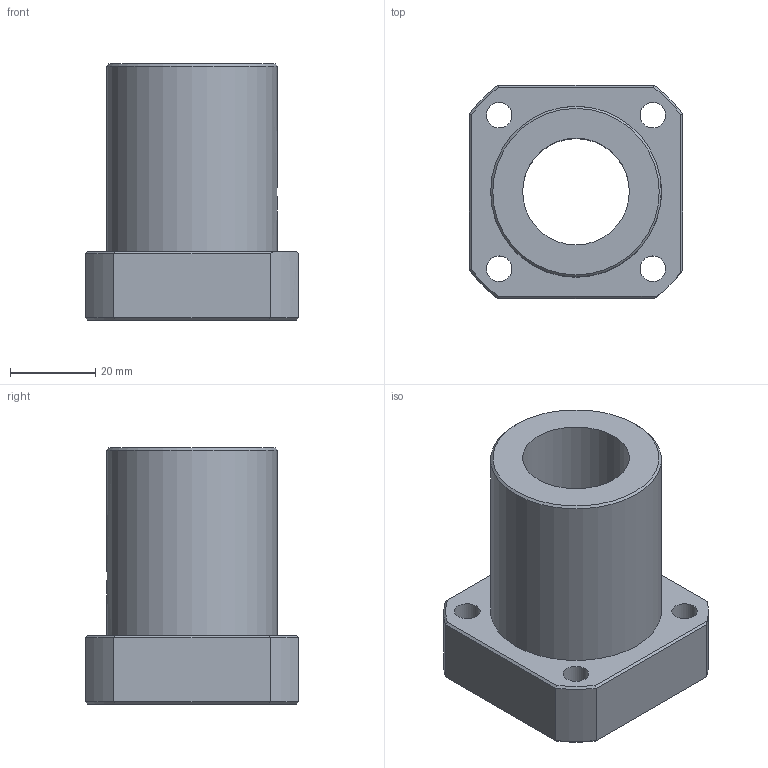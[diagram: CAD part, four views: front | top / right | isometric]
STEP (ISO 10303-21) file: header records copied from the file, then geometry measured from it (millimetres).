
FILE_DESCRIPTION((''),'2;1');
FILE_NAME('D:\製品 (図面)\カタログ用3D\シャフトブロック関連\STEP形式\SFW\SFW25.stp','2010-06-01T16:33:25',('Tsuchiya'),(''),'Autodesk Inventor 10','Autodesk Inventor 10','');
FILE_SCHEMA(('AUTOMOTIVE_DESIGN { 1 0 10303 214 1 1 1 1 }'));
Length unit declared in the file: millimetre
Products named in the file (1): SFW25
Bounding box: 50 x 50 x 60 mm (x, y, z)
Volume: 62647.4 mm3; surface area: 17912.8 mm2
Topology: 1 solids, 1 shells, 52 faces, 128 edges, 82 vertices
Faces by surface type: plane 29, cylinder 10, cone 9, bspline 4
Full cylindrical faces by diameter (mm): 6 x4, 25 x1, 40 x1
Entity records: 1611 total; most frequent: CARTESIAN_POINT 442, DIRECTION 224, ORIENTED_EDGE 222, EDGE_CURVE 111, AXIS2_PLACEMENT_3D 82, EDGE_LOOP 77, VERTEX_POINT 76, VECTOR 60
